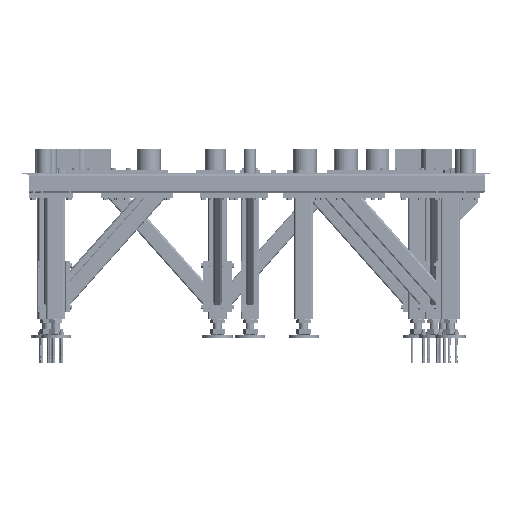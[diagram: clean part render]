
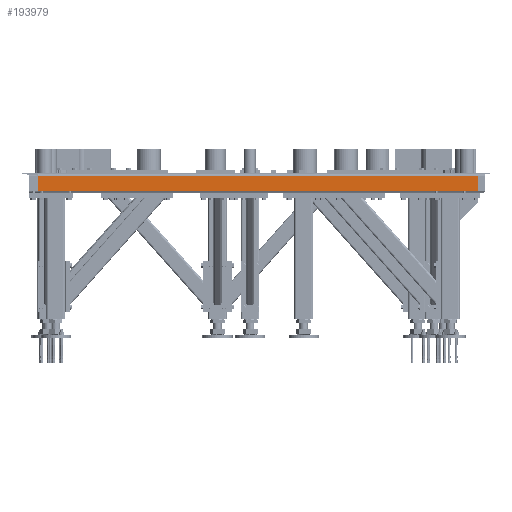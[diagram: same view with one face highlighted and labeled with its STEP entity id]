
A CAD part, front view. The second image highlights one B-rep face of the part: STEP entity #193979.
In plain terms, the highlighted planar face has unit normal (0, -1, 0).
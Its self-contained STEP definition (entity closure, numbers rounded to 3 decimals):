
#11613 = CARTESIAN_POINT ( 'NONE',  ( -32288.026, 61825.163, 32. ) ) ;
#17252 = FACE_OUTER_BOUND ( 'NONE', #49603, .T. ) ;
#18846 = LINE ( 'NONE', #194415, #45343 ) ;
#28731 = ORIENTED_EDGE ( 'NONE', *, *, #100748, .F. ) ;
#32168 = ORIENTED_EDGE ( 'NONE', *, *, #161316, .T. ) ;
#39745 = CARTESIAN_POINT ( 'NONE',  ( -30438.026, 61825.163, -32. ) ) ;
#45343 = VECTOR ( 'NONE', #160194, 1000. ) ;
#49603 = EDGE_LOOP ( 'NONE', ( #89266, #28731, #89003, #32168 ) ) ;
#55172 = DIRECTION ( 'NONE',  ( 0., 0., 1. ) ) ;
#55425 = DIRECTION ( 'NONE',  ( 0., 0., -1. ) ) ;
#56162 = DIRECTION ( 'NONE',  ( -1., 0., 0. ) ) ;
#57770 = EDGE_CURVE ( 'NONE', #104962, #128153, #180173, .T. ) ;
#74365 = CARTESIAN_POINT ( 'NONE',  ( -30438.026, 61825.163, 32. ) ) ;
#76949 = VERTEX_POINT ( 'NONE', #11613 ) ;
#81879 = DIRECTION ( 'NONE',  ( 0., 0., 1. ) ) ;
#86829 = VECTOR ( 'NONE', #55425, 1000. ) ;
#88944 = CARTESIAN_POINT ( 'NONE',  ( -30398.026, 61825.163, 32. ) ) ;
#89003 = ORIENTED_EDGE ( 'NONE', *, *, #57770, .F. ) ;
#89266 = ORIENTED_EDGE ( 'NONE', *, *, #216630, .F. ) ;
#91266 = VECTOR ( 'NONE', #56162, 1000. ) ;
#100748 = EDGE_CURVE ( 'NONE', #128153, #171018, #182048, .T. ) ;
#103159 = VECTOR ( 'NONE', #81879, 1000. ) ;
#104962 = VERTEX_POINT ( 'NONE', #88944 ) ;
#128153 = VERTEX_POINT ( 'NONE', #169741 ) ;
#157800 = CARTESIAN_POINT ( 'NONE',  ( -32288.026, 61825.163, -32. ) ) ;
#158618 = PLANE ( 'NONE',  #216951 ) ;
#160194 = DIRECTION ( 'NONE',  ( -1., 0., 0. ) ) ;
#161316 = EDGE_CURVE ( 'NONE', #104962, #76949, #18846, .T. ) ;
#169741 = CARTESIAN_POINT ( 'NONE',  ( -30398.026, 61825.163, -32. ) ) ;
#171018 = VERTEX_POINT ( 'NONE', #157800 ) ;
#180173 = LINE ( 'NONE', #207253, #86829 ) ;
#180428 = CARTESIAN_POINT ( 'NONE',  ( -32288.026, 61825.163, 32. ) ) ;
#182048 = LINE ( 'NONE', #39745, #91266 ) ;
#193598 = DIRECTION ( 'NONE',  ( 0., 1., 0. ) ) ;
#193979 = ADVANCED_FACE ( 'NONE', ( #17252 ), #158618, .F. ) ;
#194415 = CARTESIAN_POINT ( 'NONE',  ( -30438.026, 61825.163, 32. ) ) ;
#207253 = CARTESIAN_POINT ( 'NONE',  ( -30398.026, 61825.163, 32. ) ) ;
#209830 = LINE ( 'NONE', #180428, #103159 ) ;
#216630 = EDGE_CURVE ( 'NONE', #171018, #76949, #209830, .T. ) ;
#216951 = AXIS2_PLACEMENT_3D ( 'NONE', #74365, #193598, #55172 ) ;
